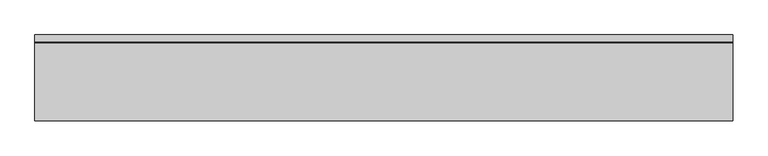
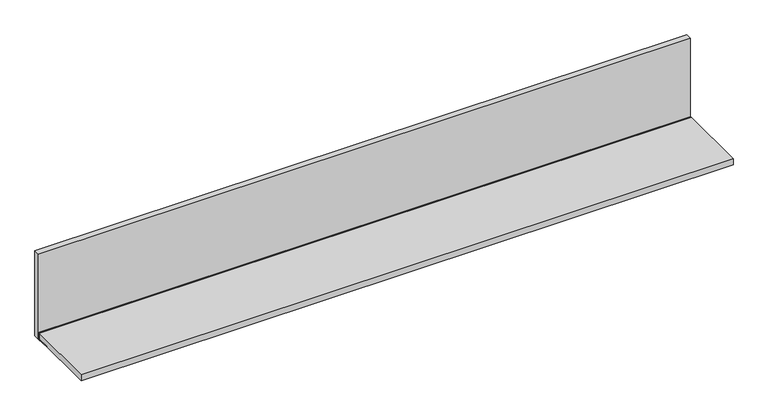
"""IFC4 building model written with IfcOpenShell, lengths in millimetres: furniture geometry, Geiger_GeigerOneCasegoods_OverheadStorageSingleShelfFullBackPanel : TFL 108Wx 13.375Dx 14.875H."""

from ifc_helpers import new_model, si_unit, point, frame, frame_2d, origin, origin_with_axes, place, context, project, spatial, polyline, circle_curve, trimmed, segment, composite_curve, outline, extrude, source, transform, mapped, element, save


def furniture_b07222ba(model_context):
    return source(origin(), model_context, "Body", "SweptSolid", [
        extrude(outline(polyline([(2743.2, -6.4077936), (2743.2, -32.4077936), (0.0, -32.4077936), (0.0, -6.4077936), (2743.2, -6.4077936)])), origin_with_axes(), (0.0, 0.0, 1.0), 379.0),
        extrude(outline(composite_curve([segment(polyline([(-33.9043936, 31.496), (-32.4057936, 31.496), (-32.4057936, 0.0)]), True, "CONTINUOUS"), segment(trimmed(circle_curve(frame_2d((-31.5258775, 473.2852461)), 473.2860641), [point((-32.4057936, 0.0))], [point((-93.0584748, 4.0161997))], False, "CARTESIAN"), True, "CONTINUOUS"), segment(trimmed(circle_curve(frame_2d((-92.9289669, 5.0038725)), 0.9961275), [point((-93.0584748, 4.0161997))], [point((-92.9289669, 6.0))], False, "CARTESIAN"), True, "CONTINUOUS"), segment(polyline([(-92.9289669, 6.0), (-38.9077936, 6.0), (-38.9077936, 31.496), (-37.4095936, 31.496), (-37.4095936, 26.4922), (-33.9043936, 26.4922), (-33.9043936, 31.496)]), True, "CONTINUOUS")], self_intersect=False)), frame((0.0, 0.0, 0.0), z_axis=(1.0, 0.0, 0.0), x_axis=(0.0, 1.0, 0.0)), (0.0, 0.0, 1.0), 2743.2),
        extrude(outline(polyline([(2743.2, -38.9077936), (2743.2, -344.4077936), (0.0, -344.4077936), (0.0, -38.9077936), (2743.2, -38.9077936)])), frame((0.0, 0.0, 6.0), z_axis=(0.0, 0.0, 1.0), x_axis=(1.0, 0.0, 0.0)), (0.0, 0.0, 1.0), 26.0),
    ])


if __name__ == "__main__":
    model = new_model("IFC4")
    model_context = context("Model", 3, world=origin())
    ifc_project = project(units=[si_unit("LENGTHUNIT", "METRE", prefix="MILLI")], contexts=[model_context])
    site = spatial("IfcSite", under=ifc_project)
    building = spatial("IfcBuilding", under=site)
    placement = place(None, origin())
    furniture_shape = furniture_b07222ba(model_context)
    element("IfcFurniture", 1, ObjectType="Geiger_GeigerOneCasegoods_OverheadStorageSingleShelfFullBackPanel : TFL 108Wx 13.375Dx 14.875H", at=placement, inside=building, context=model_context, shape_type="MappedRepresentation", body=[
        mapped(furniture_shape, transform((0.0, 0.0, 0.0), x_axis=(1.0, 0.0, 0.0), y_axis=(0.0, 1.0, 0.0), z_axis=(0.0, 0.0, 1.0))),
    ])
    save(model, "model.ifc")
